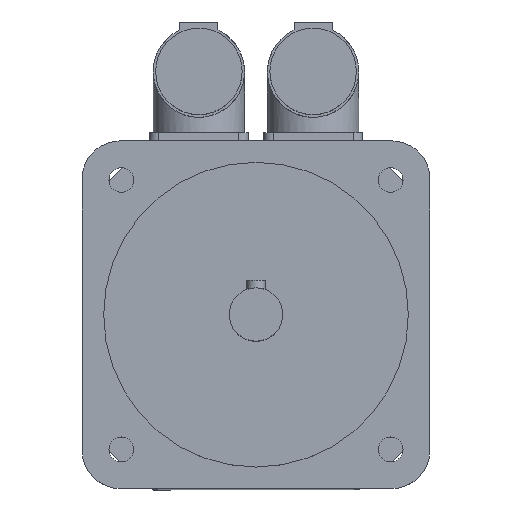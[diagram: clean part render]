
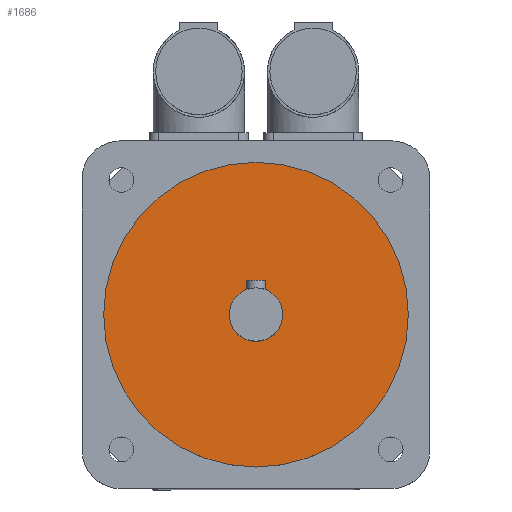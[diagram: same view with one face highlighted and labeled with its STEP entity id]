
A CAD part, top view. The second image highlights one B-rep face of the part: STEP entity #1686.
In plain terms, the highlighted planar face has unit normal (0, 0, 1).
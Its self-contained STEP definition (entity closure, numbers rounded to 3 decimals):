
#28=FACE_BOUND('',#305,.T.);
#53=CIRCLE('',#1788,7.);
#54=CIRCLE('',#1791,40.);
#202=FACE_OUTER_BOUND('',#304,.T.);
#304=EDGE_LOOP('',(#1158));
#305=EDGE_LOOP('',(#1159));
#718=VERTEX_POINT('',#2569);
#719=VERTEX_POINT('',#2573);
#892=EDGE_CURVE('',#718,#718,#53,.T.);
#893=EDGE_CURVE('',#719,#719,#54,.T.);
#1158=ORIENTED_EDGE('',*,*,#893,.T.);
#1159=ORIENTED_EDGE('',*,*,#892,.T.);
#1633=PLANE('',#1793);
#1686=ADVANCED_FACE('',(#202,#28),#1633,.T.);
#1788=AXIS2_PLACEMENT_3D('',#2570,#2000,#2001);
#1791=AXIS2_PLACEMENT_3D('',#2574,#2006,#2007);
#1793=AXIS2_PLACEMENT_3D('',#2577,#2010,#2011);
#2000=DIRECTION('center_axis',(0.,0.,-1.));
#2001=DIRECTION('ref_axis',(-1.,0.,0.));
#2006=DIRECTION('center_axis',(0.,0.,1.));
#2007=DIRECTION('ref_axis',(-1.,0.,0.));
#2010=DIRECTION('center_axis',(0.,0.,1.));
#2011=DIRECTION('ref_axis',(1.,0.,0.));
#2569=CARTESIAN_POINT('',(7.,0.,196.));
#2570=CARTESIAN_POINT('Origin',(0.,0.,196.));
#2573=CARTESIAN_POINT('',(40.,0.,196.));
#2574=CARTESIAN_POINT('Origin',(0.,0.,196.));
#2577=CARTESIAN_POINT('Origin',(0.,0.,
196.));
